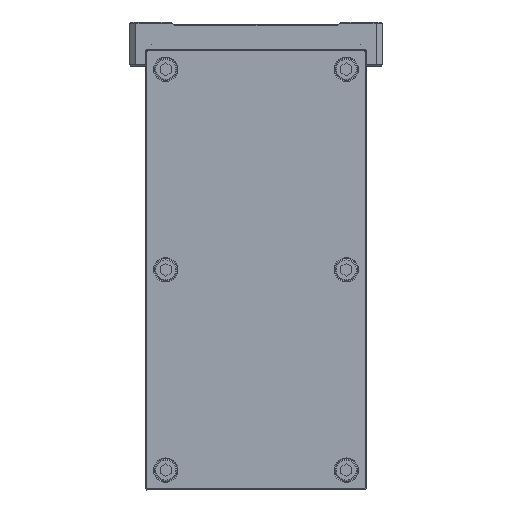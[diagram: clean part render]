
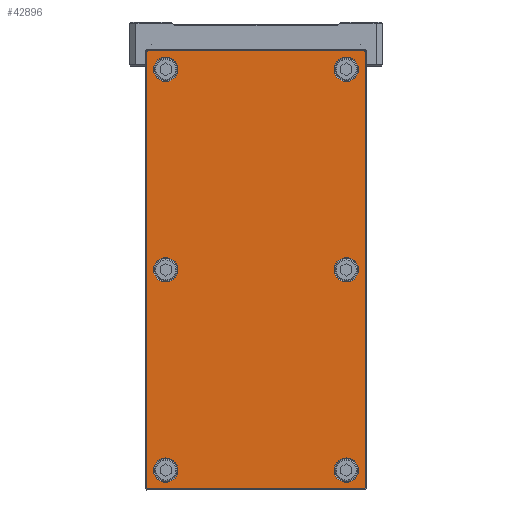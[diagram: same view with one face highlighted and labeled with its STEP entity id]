
A CAD part, front view. The second image highlights one B-rep face of the part: STEP entity #42896.
In plain terms, the highlighted planar face has unit normal (0, -1, 0).
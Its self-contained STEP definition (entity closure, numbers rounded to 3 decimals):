
#41513=CARTESIAN_POINT('',(99.,-7.,-49.));
#41514=DIRECTION('',(0.,-1.,0.));
#41515=DIRECTION('',(0.,0.,-1.));
#41516=AXIS2_PLACEMENT_3D('',#41513,#41514,#41515);
#41518=DIRECTION('',(1.,0.,0.));
#41519=VECTOR('',#41518,198.);
#41520=CARTESIAN_POINT('',(-99.,-7.,
-49.5));
#41521=LINE('',#41520,#41519);
#41522=CARTESIAN_POINT('',(-99.,-7.,-49.));
#41523=DIRECTION('',(0.,-1.,0.));
#41524=DIRECTION('',(-1.,0.,0.));
#41525=AXIS2_PLACEMENT_3D('',#41522,#41523,#41524);
#41527=DIRECTION('',(0.,0.,-1.));
#41528=VECTOR('',#41527,98.);
#41529=CARTESIAN_POINT('',(-99.5,-7.,
49.));
#41530=LINE('',#41529,#41528);
#41531=CARTESIAN_POINT('',(-99.,-7.,49.));
#41532=DIRECTION('',(0.,-1.,0.));
#41533=DIRECTION('',(0.,0.,1.));
#41534=AXIS2_PLACEMENT_3D('',#41531,#41532,#41533);
#41536=DIRECTION('',(-1.,0.,0.));
#41537=VECTOR('',#41536,198.);
#41538=CARTESIAN_POINT('',(99.,-7.,
49.5));
#41539=LINE('',#41538,#41537);
#41540=CARTESIAN_POINT('',(99.,-7.,49.));
#41541=DIRECTION('',(0.,-1.,0.));
#41542=DIRECTION('',(1.,0.,0.));
#41543=AXIS2_PLACEMENT_3D('',#41540,#41541,#41542);
#41545=DIRECTION('',(0.,0.,1.));
#41546=VECTOR('',#41545,98.);
#41547=CARTESIAN_POINT('',(99.5,-7.,
-49.));
#41548=LINE('',#41547,#41546);
#41549=CARTESIAN_POINT('',(-91.,-7.,-41.));
#41550=DIRECTION('',(0.,1.,0.));
#41551=DIRECTION('',(1.,0.,0.));
#41552=AXIS2_PLACEMENT_3D('',#41549,#41550,#41551);
#41554=CARTESIAN_POINT('',(-91.,-7.,-41.));
#41555=DIRECTION('',(0.,1.,0.));
#41556=DIRECTION('',(-1.,0.,0.));
#41557=AXIS2_PLACEMENT_3D('',#41554,#41555,#41556);
#41559=CARTESIAN_POINT('',(0.,-7.,-41.));
#41560=DIRECTION('',(0.,1.,0.));
#41561=DIRECTION('',(1.,0.,0.));
#41562=AXIS2_PLACEMENT_3D('',#41559,#41560,#41561);
#41564=CARTESIAN_POINT('',(0.,-7.,-41.));
#41565=DIRECTION('',(0.,1.,0.));
#41566=DIRECTION('',(-1.,0.,0.));
#41567=AXIS2_PLACEMENT_3D('',#41564,#41565,#41566);
#41569=CARTESIAN_POINT('',(91.,-7.,-41.));
#41570=DIRECTION('',(0.,1.,0.));
#41571=DIRECTION('',(1.,0.,0.));
#41572=AXIS2_PLACEMENT_3D('',#41569,#41570,#41571);
#41574=CARTESIAN_POINT('',(91.,-7.,-41.));
#41575=DIRECTION('',(0.,1.,0.));
#41576=DIRECTION('',(-1.,0.,0.));
#41577=AXIS2_PLACEMENT_3D('',#41574,#41575,#41576);
#41579=CARTESIAN_POINT('',(91.,-7.,41.));
#41580=DIRECTION('',(0.,1.,0.));
#41581=DIRECTION('',(1.,0.,0.));
#41582=AXIS2_PLACEMENT_3D('',#41579,#41580,#41581);
#41584=CARTESIAN_POINT('',(91.,-7.,41.));
#41585=DIRECTION('',(0.,1.,0.));
#41586=DIRECTION('',(-1.,0.,0.));
#41587=AXIS2_PLACEMENT_3D('',#41584,#41585,#41586);
#41589=CARTESIAN_POINT('',(0.,-7.,41.));
#41590=DIRECTION('',(0.,1.,0.));
#41591=DIRECTION('',(1.,0.,0.));
#41592=AXIS2_PLACEMENT_3D('',#41589,#41590,#41591);
#41594=CARTESIAN_POINT('',(0.,-7.,41.));
#41595=DIRECTION('',(0.,1.,0.));
#41596=DIRECTION('',(-1.,0.,0.));
#41597=AXIS2_PLACEMENT_3D('',#41594,#41595,#41596);
#41599=CARTESIAN_POINT('',(-91.,-7.,41.));
#41600=DIRECTION('',(0.,1.,0.));
#41601=DIRECTION('',(1.,0.,0.));
#41602=AXIS2_PLACEMENT_3D('',#41599,#41600,#41601);
#41604=CARTESIAN_POINT('',(-91.,-7.,41.));
#41605=DIRECTION('',(0.,1.,0.));
#41606=DIRECTION('',(-1.,0.,0.));
#41607=AXIS2_PLACEMENT_3D('',#41604,#41605,#41606);
#42637=CARTESIAN_POINT('',(99.,-7.,-49.5));
#42638=CARTESIAN_POINT('',(99.5,-7.,-49.));
#42639=VERTEX_POINT('',#42637);
#42640=VERTEX_POINT('',#42638);
#42645=CARTESIAN_POINT('',(99.5,-7.,
49.));
#42646=VERTEX_POINT('',#42645);
#42649=CARTESIAN_POINT('',(99.,-7.,49.5));
#42650=VERTEX_POINT('',#42649);
#42653=CARTESIAN_POINT('',(-99.,-7.,
49.5));
#42654=VERTEX_POINT('',#42653);
#42657=CARTESIAN_POINT('',(-99.5,-7.,49.));
#42658=VERTEX_POINT('',#42657);
#42661=CARTESIAN_POINT('',(-99.5,-7.,
-49.));
#42662=VERTEX_POINT('',#42661);
#42665=CARTESIAN_POINT('',(-99.,-7.,-49.5));
#42666=VERTEX_POINT('',#42665);
#42693=CARTESIAN_POINT('',(-85.45,-7.,-41.));
#42694=CARTESIAN_POINT('',(-96.55,-7.,-41.));
#42695=VERTEX_POINT('',#42693);
#42696=VERTEX_POINT('',#42694);
#42709=CARTESIAN_POINT('',(5.55,-7.,-41.));
#42710=CARTESIAN_POINT('',(-5.55,-7.,-41.));
#42711=VERTEX_POINT('',#42709);
#42712=VERTEX_POINT('',#42710);
#42733=CARTESIAN_POINT('',(96.55,-7.,-41.));
#42734=CARTESIAN_POINT('',(85.45,-7.,-41.));
#42735=VERTEX_POINT('',#42733);
#42736=VERTEX_POINT('',#42734);
#42749=CARTESIAN_POINT('',(96.55,-7.,41.));
#42750=CARTESIAN_POINT('',(85.45,-7.,41.));
#42751=VERTEX_POINT('',#42749);
#42752=VERTEX_POINT('',#42750);
#42757=CARTESIAN_POINT('',(5.55,-7.,41.));
#42758=CARTESIAN_POINT('',(-5.55,-7.,41.));
#42759=VERTEX_POINT('',#42757);
#42760=VERTEX_POINT('',#42758);
#42781=CARTESIAN_POINT('',(-85.45,-7.,41.));
#42782=CARTESIAN_POINT('',(-96.55,-7.,41.));
#42783=VERTEX_POINT('',#42781);
#42784=VERTEX_POINT('',#42782);
#42837=CARTESIAN_POINT('',(0.,-7.,0.));
#42838=DIRECTION('',(0.,1.,0.));
#42839=DIRECTION('',(1.,0.,0.));
#42840=AXIS2_PLACEMENT_3D('',#42837,#42838,#42839);
#42841=PLANE('',#42840);
#42843=ORIENTED_EDGE('',*,*,#42842,.F.);
#42845=ORIENTED_EDGE('',*,*,#42844,.F.);
#42847=ORIENTED_EDGE('',*,*,#42846,.F.);
#42849=ORIENTED_EDGE('',*,*,#42848,.F.);
#42851=ORIENTED_EDGE('',*,*,#42850,.F.);
#42853=ORIENTED_EDGE('',*,*,#42852,.F.);
#42855=ORIENTED_EDGE('',*,*,#42854,.F.);
#42857=ORIENTED_EDGE('',*,*,#42856,.F.);
#42858=EDGE_LOOP('',(#42843,#42845,#42847,#42849,#42851,#42853,#42855,#42857));
#42859=FACE_OUTER_BOUND('',#42858,.F.);
#42861=ORIENTED_EDGE('',*,*,#42860,.F.);
#42863=ORIENTED_EDGE('',*,*,#42862,.F.);
#42864=EDGE_LOOP('',(#42861,#42863));
#42865=FACE_BOUND('',#42864,.F.);
#42867=ORIENTED_EDGE('',*,*,#42866,.F.);
#42869=ORIENTED_EDGE('',*,*,#42868,.F.);
#42870=EDGE_LOOP('',(#42867,#42869));
#42871=FACE_BOUND('',#42870,.F.);
#42873=ORIENTED_EDGE('',*,*,#42872,.F.);
#42875=ORIENTED_EDGE('',*,*,#42874,.F.);
#42876=EDGE_LOOP('',(#42873,#42875));
#42877=FACE_BOUND('',#42876,.F.);
#42879=ORIENTED_EDGE('',*,*,#42878,.F.);
#42881=ORIENTED_EDGE('',*,*,#42880,.F.);
#42882=EDGE_LOOP('',(#42879,#42881));
#42883=FACE_BOUND('',#42882,.F.);
#42885=ORIENTED_EDGE('',*,*,#42884,.F.);
#42887=ORIENTED_EDGE('',*,*,#42886,.F.);
#42888=EDGE_LOOP('',(#42885,#42887));
#42889=FACE_BOUND('',#42888,.F.);
#42891=ORIENTED_EDGE('',*,*,#42890,.F.);
#42893=ORIENTED_EDGE('',*,*,#42892,.F.);
#42894=EDGE_LOOP('',(#42891,#42893));
#42895=FACE_BOUND('',#42894,.F.);
#42896=ADVANCED_FACE('',(#42859,#42865,#42871,#42877,#42883,#42889,#42895),
#42841,.F.);
#41517=CIRCLE('',#41516,0.5);
#41526=CIRCLE('',#41525,0.5);
#41535=CIRCLE('',#41534,0.5);
#41544=CIRCLE('',#41543,0.5);
#41553=CIRCLE('',#41552,5.55);
#41558=CIRCLE('',#41557,5.55);
#41563=CIRCLE('',#41562,5.55);
#41568=CIRCLE('',#41567,5.55);
#41573=CIRCLE('',#41572,5.55);
#41578=CIRCLE('',#41577,5.55);
#41583=CIRCLE('',#41582,5.55);
#41588=CIRCLE('',#41587,5.55);
#41593=CIRCLE('',#41592,5.55);
#41598=CIRCLE('',#41597,5.55);
#41603=CIRCLE('',#41602,5.55);
#41608=CIRCLE('',#41607,5.55);
#42842=EDGE_CURVE('',#42639,#42640,#41517,.T.);
#42844=EDGE_CURVE('',#42666,#42639,#41521,.T.);
#42846=EDGE_CURVE('',#42662,#42666,#41526,.T.);
#42848=EDGE_CURVE('',#42658,#42662,#41530,.T.);
#42850=EDGE_CURVE('',#42654,#42658,#41535,.T.);
#42852=EDGE_CURVE('',#42650,#42654,#41539,.T.);
#42854=EDGE_CURVE('',#42646,#42650,#41544,.T.);
#42856=EDGE_CURVE('',#42640,#42646,#41548,.T.);
#42860=EDGE_CURVE('',#42695,#42696,#41553,.T.);
#42862=EDGE_CURVE('',#42696,#42695,#41558,.T.);
#42866=EDGE_CURVE('',#42711,#42712,#41563,.T.);
#42868=EDGE_CURVE('',#42712,#42711,#41568,.T.);
#42872=EDGE_CURVE('',#42735,#42736,#41573,.T.);
#42874=EDGE_CURVE('',#42736,#42735,#41578,.T.);
#42878=EDGE_CURVE('',#42751,#42752,#41583,.T.);
#42880=EDGE_CURVE('',#42752,#42751,#41588,.T.);
#42884=EDGE_CURVE('',#42759,#42760,#41593,.T.);
#42886=EDGE_CURVE('',#42760,#42759,#41598,.T.);
#42890=EDGE_CURVE('',#42783,#42784,#41603,.T.);
#42892=EDGE_CURVE('',#42784,#42783,#41608,.T.);
